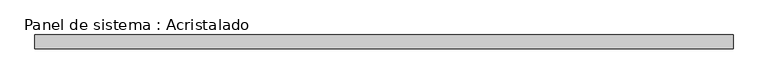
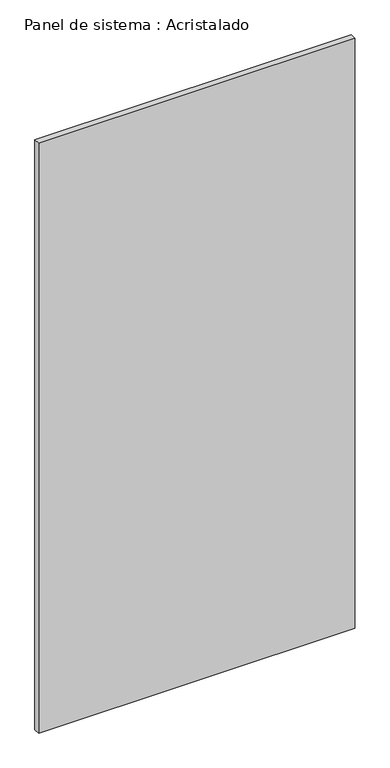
"""IFC4 building model written with IfcOpenShell, lengths in millimetres: plate geometry, Panel de sistema : Acristalado."""

from ifc_helpers import new_model, si_unit, origin, origin_with_axes, place, context, project, spatial, polyline, outline, extrude, source, transform, mapped, element, save


def panel_de_sistema_acristalado_23e90c11(model_context):
    return source(origin(), model_context, "Body", "SweptSolid", [
        extrude(outline(polyline([(507.351925, -10.0), (-507.351925, -10.0), (-507.351925, 10.0), (507.351925, 10.0), (507.351925, -10.0)])), origin_with_axes(), (0.0, 0.0, 1.0), 2000.0),
    ])


if __name__ == "__main__":
    model = new_model("IFC4")
    model_context = context("Model", 3, world=origin())
    ifc_project = project(units=[si_unit("LENGTHUNIT", "METRE", prefix="MILLI")], contexts=[model_context])
    site = spatial("IfcSite", under=ifc_project)
    building = spatial("IfcBuilding", under=site)
    placement = place(None, origin())
    panel_de_sistema_acristalado_shape = panel_de_sistema_acristalado_23e90c11(model_context)
    element("IfcPlate", 1, ObjectType="Panel de sistema : Acristalado", at=placement, inside=building, context=model_context, shape_type="MappedRepresentation", body=[
        mapped(panel_de_sistema_acristalado_shape, transform((0.0, 0.0, 0.0), x_axis=(1.0, 0.0, 0.0), y_axis=(0.0, 1.0, 0.0), z_axis=(0.0, 0.0, 1.0))),
    ])
    save(model, "model.ifc")
